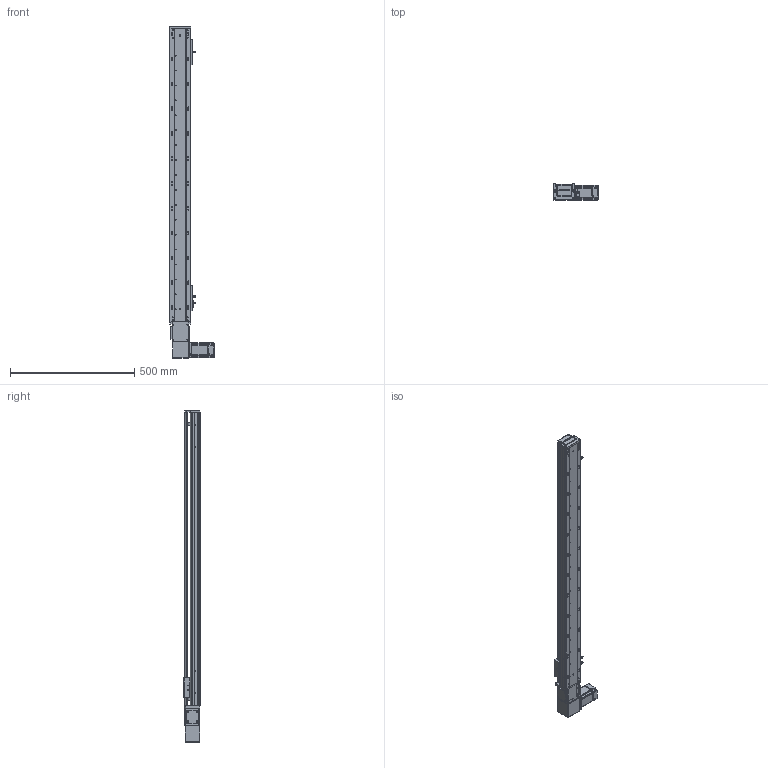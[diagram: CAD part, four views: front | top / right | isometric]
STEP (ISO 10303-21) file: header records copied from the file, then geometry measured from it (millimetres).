
FILE_DESCRIPTION (( 'STEP AP203' ), '1' );
FILE_NAME ('RY80-T-300-RK.SLDASM_1000.step', '2021-03-01T02:07:21', ( '盈信电脑' ), ( '东莞市道滘镇水果街19号' ), 'SwSTEP 2.0', 'SolidWorks 2012', '' );
FILE_SCHEMA (( 'CONFIG_CONTROL_DESIGN' ));
Products named in the file (20): 滅袉蝶18-10; RY100-T粣創揤踡裔; RY80-T-300-RK.SLDASM_1000; RY80-T粣創揤踡輸; RY80-T肮祭謫俋欶; RY80-T翋肮祭謫裔啣; RY80-T-M4蹟翐; RY80-T肮祭湍揤輸2; RY80-T萇儂假蚾啣; RY80-T肮祭湍揤輸1; 1; RY80俋离覜茼え; RY80-T-翋肮祭謫釱; 侂狟200W萇儂; RY80-T-300-RK倰第奻裔啣_1000; 672嫖萇羲壽假蚾釱; RY80-T綴裔啣; 覜茼ん672; RY80-T-300-RK倰第菁釱_1000; RY80-T肮祭謫臏賑輸
Assembly tree (25 placements, depth 3):
  RY80-T-300-RK.SLDASM_1000
    RY80-T-300-RK倰第菁釱_1000
    RY80-T肮祭謫臏賑輸
    RY80-T-300-RK倰第奻裔啣_1000
    RY80-T綴裔啣
    672嫖萇羲壽假蚾釱  x2
    覜茼ん672  x3
    RY80俋离覜茼え
    侂狟200W萇儂
      1
    RY80-T-翋肮祭謫釱
    RY80-T萇儂假蚾啣
    RY80-T肮祭湍揤輸1
    RY80-T肮祭湍揤輸2
    RY80-T粣創揤踡輸
    RY80-T-M4蹟翐  x2
    RY80-T翋肮祭謫裔啣  x2
    RY80-T肮祭謫俋欶
    滅袉蝶18-10  x2
    RY100-T粣創揤踡裔
Bounding box: 180 x 65 x 1335 mm (x, y, z)
Volume: 2186031.7 mm3; surface area: 917638.6 mm2
Topology: 24 solids, 24 shells, 2672 faces, 7413 edges, 4821 vertices
Faces by surface type: plane 1374, cylinder 1089, cone 153, bspline 56
Entity records: 86166 total; most frequent: CARTESIAN_POINT 22123, ORIENTED_EDGE 13270, DIRECTION 12258, EDGE_CURVE 6635, VERTEX_POINT 4362, AXIS2_PLACEMENT_3D 4177, LINE 3904, VECTOR 3904
